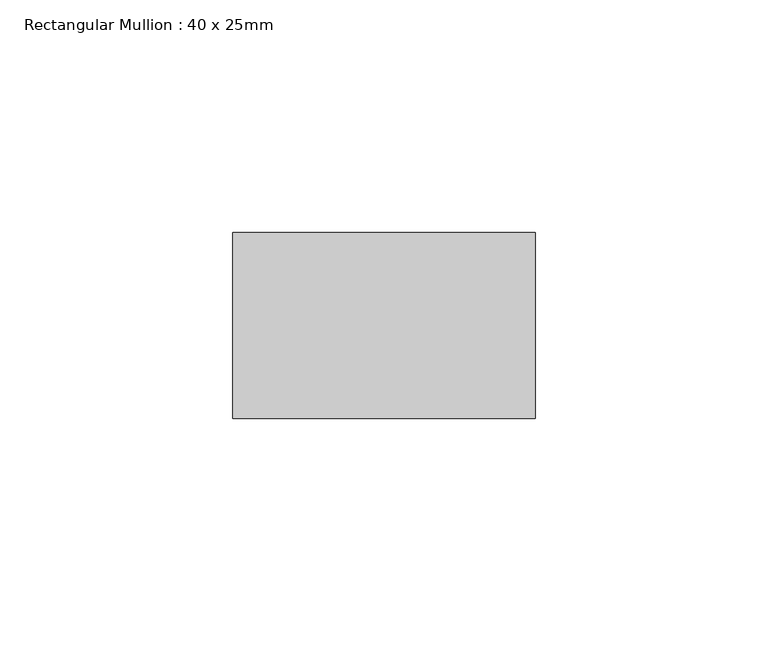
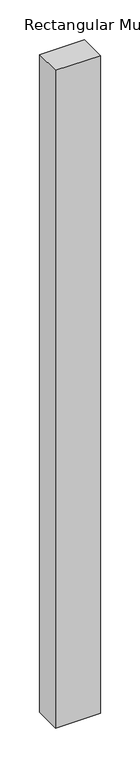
"""IFC4 building model written with IfcOpenShell, lengths in millimetres: member geometry, Rectangular Mullion : 40 x 25mm."""

from ifc_helpers import new_model, si_unit, frame, origin, place, context, project, spatial, polyline, outline, extrude, source, transform, mapped, element, save


def rectangular_mullion_40_x_25mm_7058aee2(model_context):
    return source(origin(), model_context, "Body", "SweptSolid", [
        extrude(outline(polyline([(0.0, -20.0), (0.0, -60.0), (-65.0, -60.0), (-65.0, -20.0), (0.0, -20.0)])), frame((0.0, 0.0, -1008.050759), z_axis=(0.0, 0.0, 1.0), x_axis=(1.0, 0.0, 0.0)), (0.0, 0.0, 1.0), 1008.050759),
    ])


if __name__ == "__main__":
    model = new_model("IFC4")
    model_context = context("Model", 3, world=origin())
    ifc_project = project(units=[si_unit("LENGTHUNIT", "METRE", prefix="MILLI")], contexts=[model_context])
    site = spatial("IfcSite", under=ifc_project)
    building = spatial("IfcBuilding", under=site)
    placement = place(None, origin())
    rectangular_mullion_40_x_25mm_shape = rectangular_mullion_40_x_25mm_7058aee2(model_context)
    element("IfcMember", 1, ObjectType="Rectangular Mullion : 40 x 25mm", at=placement, inside=building, context=model_context, shape_type="MappedRepresentation", body=[
        mapped(rectangular_mullion_40_x_25mm_shape, transform((0.0, 0.0, 0.0), x_axis=(1.0, 0.0, 0.0), y_axis=(0.0, 1.0, 0.0), z_axis=(0.0, 0.0, 1.0))),
    ])
    save(model, "model.ifc")
